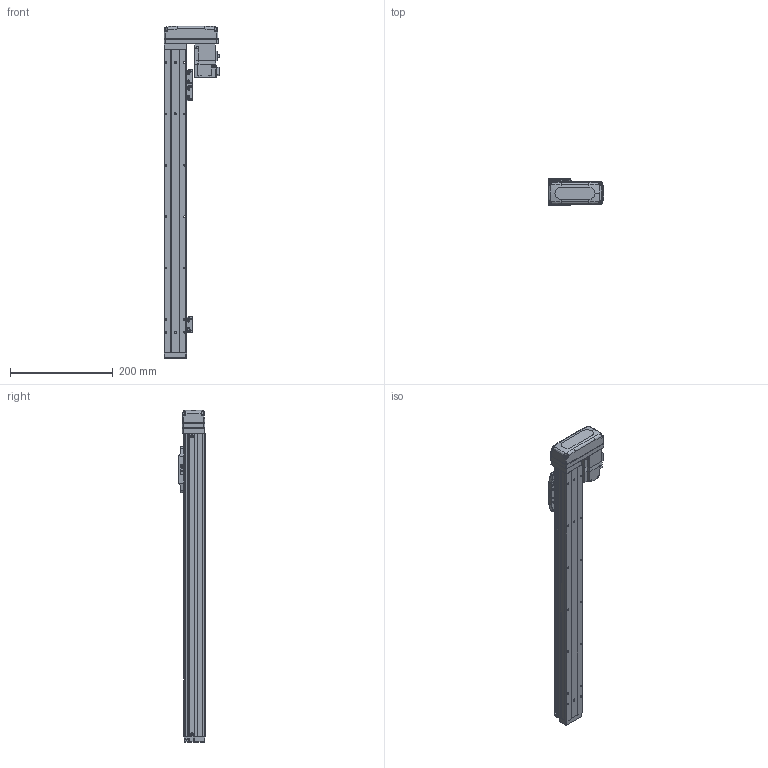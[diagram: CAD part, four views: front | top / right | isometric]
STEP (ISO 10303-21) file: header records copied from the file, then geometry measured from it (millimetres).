
FILE_DESCRIPTION (( 'STEP AP203' ), '1' );
FILE_NAME ('BTH40-450-BL-M05-C4.step', '2021-12-16T00:15:32', ( '微软用户' ), ( '微软中国' ), 'SwSTEP 2.0', 'SolidWorks 2020', '' );
FILE_SCHEMA (( 'CONFIG_CONTROL_DESIGN' ));
Length unit declared in the file: millimetre
Products named in the file (19): GBT 70.3-M3℅6; BTH40-006; GBT96.1-2002 3×0.8; BTH40-027-1; BTH-M3X5X6; BTH40-022; BTH50-026; GBT70.1-2000 M3×16; GBT 70.1-M2.5×6; BTH40-450-BL-M05-C4; BTH50-028; BTH40-004; BTH50-023; BTH40-013; BTH40-001-50_BTH40-001-450; BTH50-024; HG-KR13; BTH40-003; GBT 70.1-M3℅6
Assembly tree (47 placements, depth 2):
  BTH40-450-BL-M05-C4
    BTH40-001-50_BTH40-001-450
    BTH40-003
    BTH40-006
    BTH-M3X5X6  x8
    GBT70.1-2000 M3×16  x4
    BTH50-028  x2
    BTH50-023  x3
    BTH50-024  x3
    GBT 70.1-M3℅6  x6
    GBT96.1-2002 3×0.8  x6
    BTH40-022
    GBT 70.1-M2.5×6  x2
    BTH40-004
    BTH40-013
    HG-KR13
    GBT 70.3-M3℅6  x4
    BTH40-027-1
    BTH50-026
Bounding box: 108.8 x 52 x 646 mm (x, y, z)
Volume: 1204242.1 mm3; surface area: 216821 mm2
Topology: 49 solids, 49 shells, 1983 faces, 4659 edges, 2866 vertices
Faces by surface type: plane 1052, cylinder 495, cone 270, torus 128, bspline 34, sphere 4
Entity records: 39691 total; most frequent: CARTESIAN_POINT 7594, DIRECTION 6224, ORIENTED_EDGE 5964, EDGE_CURVE 2982, AXIS2_PLACEMENT_3D 2131, LINE 1962, VECTOR 1962, VERTEX_POINT 1853
